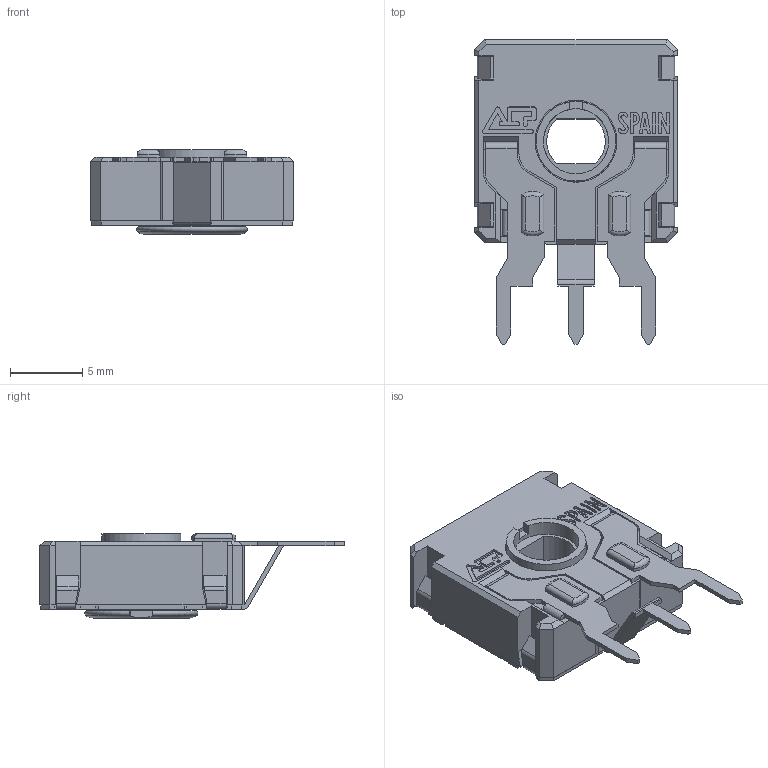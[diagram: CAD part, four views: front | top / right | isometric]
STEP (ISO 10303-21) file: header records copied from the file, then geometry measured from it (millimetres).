
FILE_DESCRIPTION(/* description */ (''),/* implementation_level */ '2;1');
FILE_NAME(/* name */ 'C:\Users\CEM\Desktop\ENVIAR\TRANSICION 3D CATALOGOS\CS14NH0.stp',/* time_stamp */ '2025-10-24T17:46:39+02:00',/* author */ ('CEM'),/* organization */ (''),/* preprocessor_version */ 'ST-DEVELOPER v17',/* originating_system */ 'Autodesk Inventor 2018',/* authorisation */ '');
FILE_SCHEMA (('AUTOMOTIVE_DESIGN { 1 0 10303 214 3 1 1 }'));
Length unit declared in the file: millimetre
Products named in the file (1): CS14NH0
Bounding box: 14 x 21 x 5.8 mm (x, y, z)
Volume: 549.2 mm3; surface area: 1590.1 mm2
Topology: 1 solids, 3 shells, 701 faces, 1971 edges, 1273 vertices
Faces by surface type: plane 537, cylinder 130, cone 15, bspline 10, torus 9
Full cylindrical faces by diameter (mm): 4.5 x1, 5.5 x1, 5.65 x1, 6.87 x1
Entity records: 23373 total; most frequent: CARTESIAN_POINT 4373, ORIENTED_EDGE 3942, DIRECTION 3657, EDGE_CURVE 1971, LINE 1559, VECTOR 1559, VERTEX_POINT 1273, AXIS2_PLACEMENT_3D 1049
